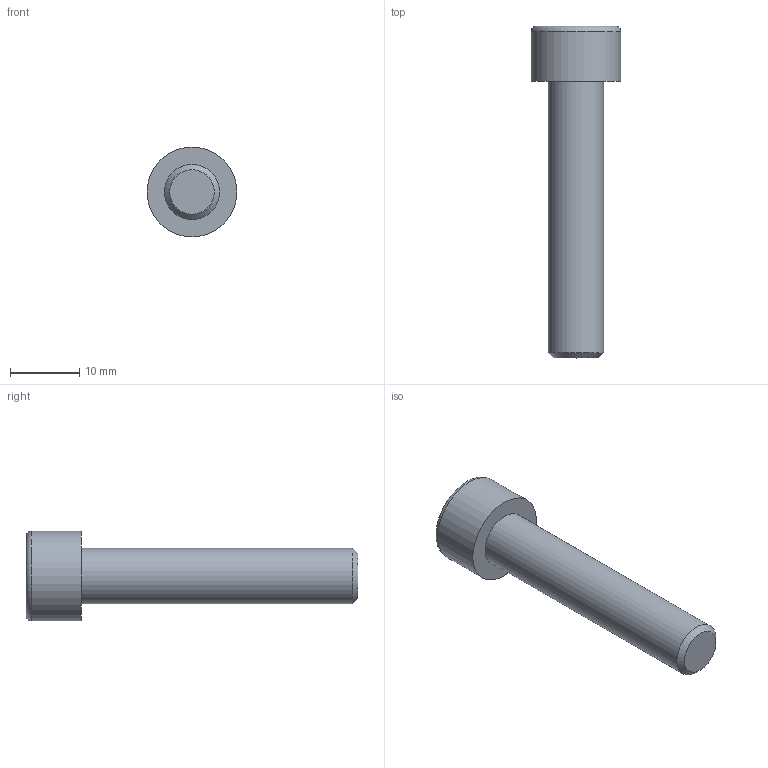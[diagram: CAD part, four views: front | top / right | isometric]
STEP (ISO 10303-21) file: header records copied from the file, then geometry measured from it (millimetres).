
FILE_DESCRIPTION(/* description */ (''),/* implementation_level */ '2;1');
FILE_NAME(/* name */ 'C:\Users\D\Documents\Inventor\各種小物\JIS\JIS B 1176 六角穴付きボルト\M8x40.stp',/* time_stamp */ '2022-05-09T18:52:29+09:00',/* author */ ('D'),/* organization */ (''),/* preprocessor_version */ 'ST-DEVELOPER v18',/* originating_system */ 'Autodesk Inventor 2020',/* authorisation */ '');
FILE_SCHEMA (('AUTOMOTIVE_DESIGN { 1 0 10303 214 3 1 1 }'));
Length unit declared in the file: millimetre
Products named in the file (1): M1.6x2.5
Bounding box: 13 x 48 x 13 mm (x, y, z)
Volume: 2910.9 mm3; surface area: 1662.7 mm2
Topology: 1 solids, 1 shells, 14 faces, 33 edges, 22 vertices
Faces by surface type: plane 9, cone 2, cylinder 2, torus 1
Full cylindrical faces by diameter (mm): 8 x1, 13 x1
Entity records: 435 total; most frequent: CARTESIAN_POINT 83, ORIENTED_EDGE 64, DIRECTION 64, EDGE_CURVE 32, AXIS2_PLACEMENT_3D 24, VERTEX_POINT 22, EDGE_LOOP 16, LINE 16
